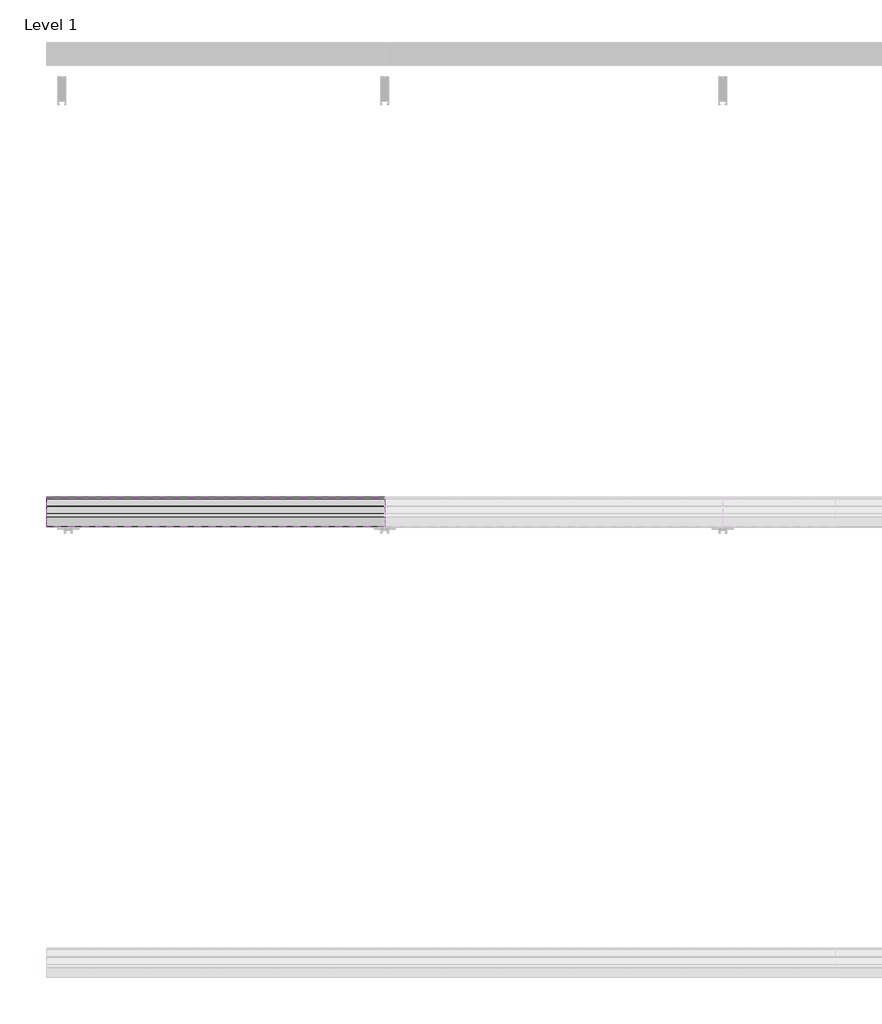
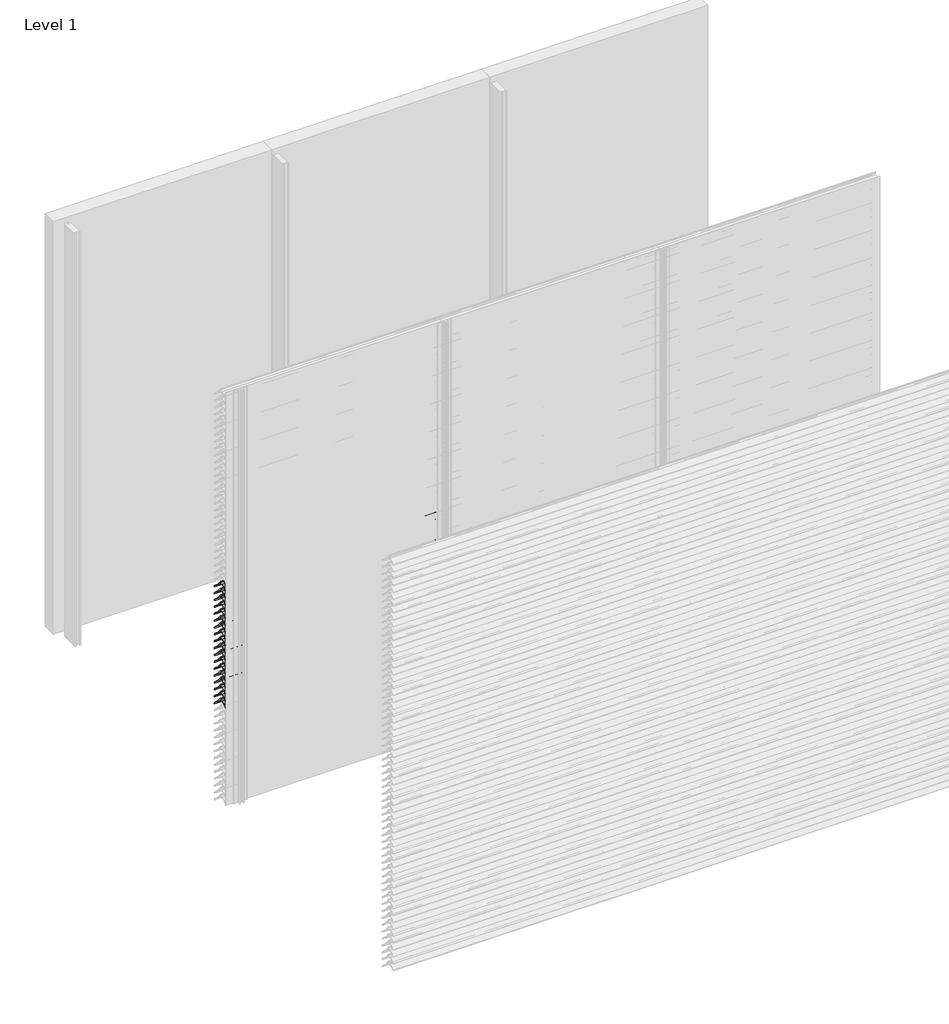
# One storey, part 8 of 173: 18 proxies.
"""IFC4 building model written with IfcOpenShell, lengths in millimetres."""

from ifc_helpers import new_model, si_unit, point, frame, frame_2d, origin, place, context, project, spatial, polyline, circle_curve, trimmed, segment, composite_curve, outline, extrude, element, save

model = new_model("IFC4")

# Units and contexts
model_context = context("Model", 3, world=origin())
ifc_project = project(units=[si_unit("LENGTHUNIT", "METRE", prefix="MILLI")], contexts=[model_context])

# Site, building, storey
site = spatial("IfcSite", under=ifc_project)
building = spatial("IfcBuilding", under=site)
storey = spatial("IfcBuildingStorey", under=building, Name="Level 1", Elevation=0.0)

# Proxies
placement = place(None, origin())
element("IfcBuildingElementProxy", 1, Name="Wall Sweeps", at=placement, inside=storey, context=model_context, shape_type="SweptSolid", body=[
    extrude(outline(composite_curve([segment(polyline([(-53998.0, 1559.1474905), (-53998.0, 1561.6227417)]), True, "CONTINUOUS"), segment(trimmed(circle_curve(frame_2d((-53951.2682172, 1516.2200208)), 65.1557103), [point((-53998.0, 1561.6227417))], [point((-53954.4014323, 1581.3003524))], False, "CARTESIAN"), True, "CONTINUOUS"), segment(polyline([(-53954.4014323, 1581.3003524), (-53934.8315836, 1581.3003524)]), True, "CONTINUOUS"), segment(trimmed(circle_curve(frame_2d((-53732.7329489, 1728.5533172)), 250.0545817), [point((-53934.8315836, 1581.3003524))], [point((-53941.4452143, 1590.8344583))], False, "CARTESIAN"), True, "CONTINUOUS"), segment(trimmed(circle_curve(frame_2d((-53953.2981792, 1585.1737835)), 13.1352966), [point((-53941.4452143, 1590.8344583))], [point((-53953.8171475, 1598.298824))], True, "CARTESIAN"), True, "CONTINUOUS"), segment(polyline([(-53953.8171475, 1598.298824), (-53953.8171475, 1600.0)]), True, "CONTINUOUS"), segment(trimmed(circle_curve(frame_2d((-53953.2981792, 1585.1737835)), 14.8352966), [point((-53953.8171475, 1600.0))], [point((-53939.9637661, 1591.6760487))], False, "CARTESIAN"), True, "CONTINUOUS"), segment(trimmed(circle_curve(frame_2d((-53732.7329489, 1728.5533172)), 248.3545817), [point((-53939.9637661, 1591.6760487))], [point((-53873.8787895, 1524.2059416))], True, "CARTESIAN"), True, "CONTINUOUS"), segment(trimmed(circle_curve(frame_2d((-53883.8147537, 1511.6649442)), 16.0), [point((-53873.8787895, 1524.2059416))], [point((-53867.8648347, 1510.4))], False, "CARTESIAN"), True, "CONTINUOUS"), segment(polyline([(-53867.8648347, 1510.4), (-53869.6712069, 1510.4)]), True, "CONTINUOUS"), segment(trimmed(circle_curve(frame_2d((-53883.8147537, 1511.6649442)), 14.2), [point((-53869.6712069, 1510.4))], [point((-53874.9518628, 1522.7594998))], True, "CARTESIAN"), True, "CONTINUOUS"), segment(trimmed(circle_curve(frame_2d((-53732.7329489, 1728.5533172)), 250.1545817), [point((-53874.9518628, 1522.7594998))], [point((-53933.7064024, 1579.6003524))], False, "CARTESIAN"), True, "CONTINUOUS"), segment(polyline([(-53933.7064024, 1579.6003524), (-53954.3602632, 1579.6003524)]), True, "CONTINUOUS"), segment(trimmed(circle_curve(frame_2d((-53951.2682172, 1516.2200208)), 63.4557103), [point((-53954.3602632, 1579.6003524))], [point((-53998.0, 1559.1474905))], True, "CARTESIAN"), True, "CONTINUOUS")], self_intersect=False)), frame((0.0, 0.0, 0.0), z_axis=(1.0, 0.0, 0.0), x_axis=(0.0, 1.0, 0.0)), (0.0, 0.0, 1.0), 1500.0),
])
element("IfcBuildingElementProxy", 2, Name="Wall Sweeps", at=placement, inside=storey, context=model_context, shape_type="SweptSolid", body=[
    extrude(outline(composite_curve([segment(polyline([(-53998.0, 1509.1474905), (-53998.0, 1511.6227417)]), True, "CONTINUOUS"), segment(trimmed(circle_curve(frame_2d((-53951.2682172, 1466.2200208)), 65.1557103), [point((-53998.0, 1511.6227417))], [point((-53954.4014323, 1531.3003524))], False, "CARTESIAN"), True, "CONTINUOUS"), segment(polyline([(-53954.4014323, 1531.3003524), (-53934.8315836, 1531.3003524)]), True, "CONTINUOUS"), segment(trimmed(circle_curve(frame_2d((-53732.7329489, 1678.5533172)), 250.0545817), [point((-53934.8315836, 1531.3003524))], [point((-53941.4452143, 1540.8344583))], False, "CARTESIAN"), True, "CONTINUOUS"), segment(trimmed(circle_curve(frame_2d((-53953.2981792, 1535.1737835)), 13.1352966), [point((-53941.4452143, 1540.8344583))], [point((-53953.8171475, 1548.298824))], True, "CARTESIAN"), True, "CONTINUOUS"), segment(polyline([(-53953.8171475, 1548.298824), (-53953.8171475, 1550.0)]), True, "CONTINUOUS"), segment(trimmed(circle_curve(frame_2d((-53953.2981792, 1535.1737835)), 14.8352966), [point((-53953.8171475, 1550.0))], [point((-53939.9637661, 1541.6760487))], False, "CARTESIAN"), True, "CONTINUOUS"), segment(trimmed(circle_curve(frame_2d((-53732.7329489, 1678.5533172)), 248.3545817), [point((-53939.9637661, 1541.6760487))], [point((-53873.8787895, 1474.2059416))], True, "CARTESIAN"), True, "CONTINUOUS"), segment(trimmed(circle_curve(frame_2d((-53883.8147537, 1461.6649442)), 16.0), [point((-53873.8787895, 1474.2059416))], [point((-53867.8648347, 1460.4))], False, "CARTESIAN"), True, "CONTINUOUS"), segment(polyline([(-53867.8648347, 1460.4), (-53869.6712069, 1460.4)]), True, "CONTINUOUS"), segment(trimmed(circle_curve(frame_2d((-53883.8147537, 1461.6649442)), 14.2), [point((-53869.6712069, 1460.4))], [point((-53874.9518628, 1472.7594998))], True, "CARTESIAN"), True, "CONTINUOUS"), segment(trimmed(circle_curve(frame_2d((-53732.7329489, 1678.5533172)), 250.1545817), [point((-53874.9518628, 1472.7594998))], [point((-53933.7064024, 1529.6003524))], False, "CARTESIAN"), True, "CONTINUOUS"), segment(polyline([(-53933.7064024, 1529.6003524), (-53954.3602632, 1529.6003524)]), True, "CONTINUOUS"), segment(trimmed(circle_curve(frame_2d((-53951.2682172, 1466.2200208)), 63.4557103), [point((-53954.3602632, 1529.6003524))], [point((-53998.0, 1509.1474905))], True, "CARTESIAN"), True, "CONTINUOUS")], self_intersect=False)), frame((0.0, 0.0, 0.0), z_axis=(1.0, 0.0, 0.0), x_axis=(0.0, 1.0, 0.0)), (0.0, 0.0, 1.0), 1500.0),
])
element("IfcBuildingElementProxy", 3, Name="Wall Sweeps", at=placement, inside=storey, context=model_context, shape_type="SweptSolid", body=[
    extrude(outline(composite_curve([segment(polyline([(-53998.0, 1459.1474905), (-53998.0, 1461.6227417)]), True, "CONTINUOUS"), segment(trimmed(circle_curve(frame_2d((-53951.2682172, 1416.2200208)), 65.1557103), [point((-53998.0, 1461.6227417))], [point((-53954.4014323, 1481.3003524))], False, "CARTESIAN"), True, "CONTINUOUS"), segment(polyline([(-53954.4014323, 1481.3003524), (-53934.8315836, 1481.3003524)]), True, "CONTINUOUS"), segment(trimmed(circle_curve(frame_2d((-53732.7329489, 1628.5533172)), 250.0545817), [point((-53934.8315836, 1481.3003524))], [point((-53941.4452143, 1490.8344583))], False, "CARTESIAN"), True, "CONTINUOUS"), segment(trimmed(circle_curve(frame_2d((-53953.2981792, 1485.1737835)), 13.1352966), [point((-53941.4452143, 1490.8344583))], [point((-53953.8171475, 1498.298824))], True, "CARTESIAN"), True, "CONTINUOUS"), segment(polyline([(-53953.8171475, 1498.298824), (-53953.8171475, 1500.0)]), True, "CONTINUOUS"), segment(trimmed(circle_curve(frame_2d((-53953.2981792, 1485.1737835)), 14.8352966), [point((-53953.8171475, 1500.0))], [point((-53939.9637661, 1491.6760487))], False, "CARTESIAN"), True, "CONTINUOUS"), segment(trimmed(circle_curve(frame_2d((-53732.7329489, 1628.5533172)), 248.3545817), [point((-53939.9637661, 1491.6760487))], [point((-53873.8787895, 1424.2059416))], True, "CARTESIAN"), True, "CONTINUOUS"), segment(trimmed(circle_curve(frame_2d((-53883.8147537, 1411.6649442)), 16.0), [point((-53873.8787895, 1424.2059416))], [point((-53867.8648347, 1410.4))], False, "CARTESIAN"), True, "CONTINUOUS"), segment(polyline([(-53867.8648347, 1410.4), (-53869.6712069, 1410.4)]), True, "CONTINUOUS"), segment(trimmed(circle_curve(frame_2d((-53883.8147537, 1411.6649442)), 14.2), [point((-53869.6712069, 1410.4))], [point((-53874.9518628, 1422.7594998))], True, "CARTESIAN"), True, "CONTINUOUS"), segment(trimmed(circle_curve(frame_2d((-53732.7329489, 1628.5533172)), 250.1545817), [point((-53874.9518628, 1422.7594998))], [point((-53933.7064024, 1479.6003524))], False, "CARTESIAN"), True, "CONTINUOUS"), segment(polyline([(-53933.7064024, 1479.6003524), (-53954.3602632, 1479.6003524)]), True, "CONTINUOUS"), segment(trimmed(circle_curve(frame_2d((-53951.2682172, 1416.2200208)), 63.4557103), [point((-53954.3602632, 1479.6003524))], [point((-53998.0, 1459.1474905))], True, "CARTESIAN"), True, "CONTINUOUS")], self_intersect=False)), frame((0.0, 0.0, 0.0), z_axis=(1.0, 0.0, 0.0), x_axis=(0.0, 1.0, 0.0)), (0.0, 0.0, 1.0), 1500.0),
])
element("IfcBuildingElementProxy", 4, Name="Wall Sweeps", at=placement, inside=storey, context=model_context, shape_type="SweptSolid", body=[
    extrude(outline(composite_curve([segment(polyline([(-53998.0, 1409.1474905), (-53998.0, 1411.6227417)]), True, "CONTINUOUS"), segment(trimmed(circle_curve(frame_2d((-53951.2682172, 1366.2200208)), 65.1557103), [point((-53998.0, 1411.6227417))], [point((-53954.4014323, 1431.3003524))], False, "CARTESIAN"), True, "CONTINUOUS"), segment(polyline([(-53954.4014323, 1431.3003524), (-53934.8315836, 1431.3003524)]), True, "CONTINUOUS"), segment(trimmed(circle_curve(frame_2d((-53732.7329489, 1578.5533172)), 250.0545817), [point((-53934.8315836, 1431.3003524))], [point((-53941.4452143, 1440.8344583))], False, "CARTESIAN"), True, "CONTINUOUS"), segment(trimmed(circle_curve(frame_2d((-53953.2981792, 1435.1737835)), 13.1352966), [point((-53941.4452143, 1440.8344583))], [point((-53953.8171475, 1448.298824))], True, "CARTESIAN"), True, "CONTINUOUS"), segment(polyline([(-53953.8171475, 1448.298824), (-53953.8171475, 1450.0)]), True, "CONTINUOUS"), segment(trimmed(circle_curve(frame_2d((-53953.2981792, 1435.1737835)), 14.8352966), [point((-53953.8171475, 1450.0))], [point((-53939.9637661, 1441.6760487))], False, "CARTESIAN"), True, "CONTINUOUS"), segment(trimmed(circle_curve(frame_2d((-53732.7329489, 1578.5533172)), 248.3545817), [point((-53939.9637661, 1441.6760487))], [point((-53873.8787895, 1374.2059416))], True, "CARTESIAN"), True, "CONTINUOUS"), segment(trimmed(circle_curve(frame_2d((-53883.8147537, 1361.6649442)), 16.0), [point((-53873.8787895, 1374.2059416))], [point((-53867.8648347, 1360.4))], False, "CARTESIAN"), True, "CONTINUOUS"), segment(polyline([(-53867.8648347, 1360.4), (-53869.6712069, 1360.4)]), True, "CONTINUOUS"), segment(trimmed(circle_curve(frame_2d((-53883.8147537, 1361.6649442)), 14.2), [point((-53869.6712069, 1360.4))], [point((-53874.9518628, 1372.7594998))], True, "CARTESIAN"), True, "CONTINUOUS"), segment(trimmed(circle_curve(frame_2d((-53732.7329489, 1578.5533172)), 250.1545817), [point((-53874.9518628, 1372.7594998))], [point((-53933.7064024, 1429.6003524))], False, "CARTESIAN"), True, "CONTINUOUS"), segment(polyline([(-53933.7064024, 1429.6003524), (-53954.3602632, 1429.6003524)]), True, "CONTINUOUS"), segment(trimmed(circle_curve(frame_2d((-53951.2682172, 1366.2200208)), 63.4557103), [point((-53954.3602632, 1429.6003524))], [point((-53998.0, 1409.1474905))], True, "CARTESIAN"), True, "CONTINUOUS")], self_intersect=False)), frame((0.0, 0.0, 0.0), z_axis=(1.0, 0.0, 0.0), x_axis=(0.0, 1.0, 0.0)), (0.0, 0.0, 1.0), 1500.0),
])
element("IfcBuildingElementProxy", 5, Name="Wall Sweeps", at=placement, inside=storey, context=model_context, shape_type="SweptSolid", body=[
    extrude(outline(composite_curve([segment(polyline([(-53998.0, 1359.1474905), (-53998.0, 1361.6227417)]), True, "CONTINUOUS"), segment(trimmed(circle_curve(frame_2d((-53951.2682172, 1316.2200208)), 65.1557103), [point((-53998.0, 1361.6227417))], [point((-53954.4014323, 1381.3003524))], False, "CARTESIAN"), True, "CONTINUOUS"), segment(polyline([(-53954.4014323, 1381.3003524), (-53934.8315836, 1381.3003524)]), True, "CONTINUOUS"), segment(trimmed(circle_curve(frame_2d((-53732.7329489, 1528.5533172)), 250.0545817), [point((-53934.8315836, 1381.3003524))], [point((-53941.4452143, 1390.8344583))], False, "CARTESIAN"), True, "CONTINUOUS"), segment(trimmed(circle_curve(frame_2d((-53953.2981792, 1385.1737835)), 13.1352966), [point((-53941.4452143, 1390.8344583))], [point((-53953.8171475, 1398.298824))], True, "CARTESIAN"), True, "CONTINUOUS"), segment(polyline([(-53953.8171475, 1398.298824), (-53953.8171475, 1400.0)]), True, "CONTINUOUS"), segment(trimmed(circle_curve(frame_2d((-53953.2981792, 1385.1737835)), 14.8352966), [point((-53953.8171475, 1400.0))], [point((-53939.9637661, 1391.6760487))], False, "CARTESIAN"), True, "CONTINUOUS"), segment(trimmed(circle_curve(frame_2d((-53732.7329489, 1528.5533172)), 248.3545817), [point((-53939.9637661, 1391.6760487))], [point((-53873.8787895, 1324.2059416))], True, "CARTESIAN"), True, "CONTINUOUS"), segment(trimmed(circle_curve(frame_2d((-53883.8147537, 1311.6649442)), 16.0), [point((-53873.8787895, 1324.2059416))], [point((-53867.8648347, 1310.4))], False, "CARTESIAN"), True, "CONTINUOUS"), segment(polyline([(-53867.8648347, 1310.4), (-53869.6712069, 1310.4)]), True, "CONTINUOUS"), segment(trimmed(circle_curve(frame_2d((-53883.8147537, 1311.6649442)), 14.2), [point((-53869.6712069, 1310.4))], [point((-53874.9518628, 1322.7594998))], True, "CARTESIAN"), True, "CONTINUOUS"), segment(trimmed(circle_curve(frame_2d((-53732.7329489, 1528.5533172)), 250.1545817), [point((-53874.9518628, 1322.7594998))], [point((-53933.7064024, 1379.6003524))], False, "CARTESIAN"), True, "CONTINUOUS"), segment(polyline([(-53933.7064024, 1379.6003524), (-53954.3602632, 1379.6003524)]), True, "CONTINUOUS"), segment(trimmed(circle_curve(frame_2d((-53951.2682172, 1316.2200208)), 63.4557103), [point((-53954.3602632, 1379.6003524))], [point((-53998.0, 1359.1474905))], True, "CARTESIAN"), True, "CONTINUOUS")], self_intersect=False)), frame((0.0, 0.0, 0.0), z_axis=(1.0, 0.0, 0.0), x_axis=(0.0, 1.0, 0.0)), (0.0, 0.0, 1.0), 1500.0),
])
element("IfcBuildingElementProxy", 6, Name="Wall Sweeps", at=placement, inside=storey, context=model_context, shape_type="SweptSolid", body=[
    extrude(outline(composite_curve([segment(polyline([(-53998.0, 1309.1474905), (-53998.0, 1311.6227417)]), True, "CONTINUOUS"), segment(trimmed(circle_curve(frame_2d((-53951.2682172, 1266.2200208)), 65.1557103), [point((-53998.0, 1311.6227417))], [point((-53954.4014323, 1331.3003524))], False, "CARTESIAN"), True, "CONTINUOUS"), segment(polyline([(-53954.4014323, 1331.3003524), (-53934.8315836, 1331.3003524)]), True, "CONTINUOUS"), segment(trimmed(circle_curve(frame_2d((-53732.7329489, 1478.5533172)), 250.0545817), [point((-53934.8315836, 1331.3003524))], [point((-53941.4452143, 1340.8344583))], False, "CARTESIAN"), True, "CONTINUOUS"), segment(trimmed(circle_curve(frame_2d((-53953.2981792, 1335.1737835)), 13.1352966), [point((-53941.4452143, 1340.8344583))], [point((-53953.8171475, 1348.298824))], True, "CARTESIAN"), True, "CONTINUOUS"), segment(polyline([(-53953.8171475, 1348.298824), (-53953.8171475, 1350.0)]), True, "CONTINUOUS"), segment(trimmed(circle_curve(frame_2d((-53953.2981792, 1335.1737835)), 14.8352966), [point((-53953.8171475, 1350.0))], [point((-53939.9637661, 1341.6760487))], False, "CARTESIAN"), True, "CONTINUOUS"), segment(trimmed(circle_curve(frame_2d((-53732.7329489, 1478.5533172)), 248.3545817), [point((-53939.9637661, 1341.6760487))], [point((-53873.8787895, 1274.2059416))], True, "CARTESIAN"), True, "CONTINUOUS"), segment(trimmed(circle_curve(frame_2d((-53883.8147537, 1261.6649442)), 16.0), [point((-53873.8787895, 1274.2059416))], [point((-53867.8648347, 1260.4))], False, "CARTESIAN"), True, "CONTINUOUS"), segment(polyline([(-53867.8648347, 1260.4), (-53869.6712069, 1260.4)]), True, "CONTINUOUS"), segment(trimmed(circle_curve(frame_2d((-53883.8147537, 1261.6649442)), 14.2), [point((-53869.6712069, 1260.4))], [point((-53874.9518628, 1272.7594998))], True, "CARTESIAN"), True, "CONTINUOUS"), segment(trimmed(circle_curve(frame_2d((-53732.7329489, 1478.5533172)), 250.1545817), [point((-53874.9518628, 1272.7594998))], [point((-53933.7064024, 1329.6003524))], False, "CARTESIAN"), True, "CONTINUOUS"), segment(polyline([(-53933.7064024, 1329.6003524), (-53954.3602632, 1329.6003524)]), True, "CONTINUOUS"), segment(trimmed(circle_curve(frame_2d((-53951.2682172, 1266.2200208)), 63.4557103), [point((-53954.3602632, 1329.6003524))], [point((-53998.0, 1309.1474905))], True, "CARTESIAN"), True, "CONTINUOUS")], self_intersect=False)), frame((0.0, 0.0, 0.0), z_axis=(1.0, 0.0, 0.0), x_axis=(0.0, 1.0, 0.0)), (0.0, 0.0, 1.0), 1500.0),
])
element("IfcBuildingElementProxy", 7, Name="Wall Sweeps", at=placement, inside=storey, context=model_context, shape_type="SweptSolid", body=[
    extrude(outline(composite_curve([segment(polyline([(-53998.0, 1259.1474905), (-53998.0, 1261.6227417)]), True, "CONTINUOUS"), segment(trimmed(circle_curve(frame_2d((-53951.2682172, 1216.2200208)), 65.1557103), [point((-53998.0, 1261.6227417))], [point((-53954.4014323, 1281.3003524))], False, "CARTESIAN"), True, "CONTINUOUS"), segment(polyline([(-53954.4014323, 1281.3003524), (-53934.8315836, 1281.3003524)]), True, "CONTINUOUS"), segment(trimmed(circle_curve(frame_2d((-53732.7329489, 1428.5533172)), 250.0545817), [point((-53934.8315836, 1281.3003524))], [point((-53941.4452143, 1290.8344583))], False, "CARTESIAN"), True, "CONTINUOUS"), segment(trimmed(circle_curve(frame_2d((-53953.2981792, 1285.1737835)), 13.1352966), [point((-53941.4452143, 1290.8344583))], [point((-53953.8171475, 1298.298824))], True, "CARTESIAN"), True, "CONTINUOUS"), segment(polyline([(-53953.8171475, 1298.298824), (-53953.8171475, 1300.0)]), True, "CONTINUOUS"), segment(trimmed(circle_curve(frame_2d((-53953.2981792, 1285.1737835)), 14.8352966), [point((-53953.8171475, 1300.0))], [point((-53939.9637661, 1291.6760487))], False, "CARTESIAN"), True, "CONTINUOUS"), segment(trimmed(circle_curve(frame_2d((-53732.7329489, 1428.5533172)), 248.3545817), [point((-53939.9637661, 1291.6760487))], [point((-53873.8787895, 1224.2059416))], True, "CARTESIAN"), True, "CONTINUOUS"), segment(trimmed(circle_curve(frame_2d((-53883.8147537, 1211.6649442)), 16.0), [point((-53873.8787895, 1224.2059416))], [point((-53867.8648347, 1210.4))], False, "CARTESIAN"), True, "CONTINUOUS"), segment(polyline([(-53867.8648347, 1210.4), (-53869.6712069, 1210.4)]), True, "CONTINUOUS"), segment(trimmed(circle_curve(frame_2d((-53883.8147537, 1211.6649442)), 14.2), [point((-53869.6712069, 1210.4))], [point((-53874.9518628, 1222.7594998))], True, "CARTESIAN"), True, "CONTINUOUS"), segment(trimmed(circle_curve(frame_2d((-53732.7329489, 1428.5533172)), 250.1545817), [point((-53874.9518628, 1222.7594998))], [point((-53933.7064024, 1279.6003524))], False, "CARTESIAN"), True, "CONTINUOUS"), segment(polyline([(-53933.7064024, 1279.6003524), (-53954.3602632, 1279.6003524)]), True, "CONTINUOUS"), segment(trimmed(circle_curve(frame_2d((-53951.2682172, 1216.2200208)), 63.4557103), [point((-53954.3602632, 1279.6003524))], [point((-53998.0, 1259.1474905))], True, "CARTESIAN"), True, "CONTINUOUS")], self_intersect=False)), frame((0.0, 0.0, 0.0), z_axis=(1.0, 0.0, 0.0), x_axis=(0.0, 1.0, 0.0)), (0.0, 0.0, 1.0), 1500.0),
])
element("IfcBuildingElementProxy", 8, Name="Wall Sweeps", at=placement, inside=storey, context=model_context, shape_type="SweptSolid", body=[
    extrude(outline(composite_curve([segment(polyline([(-53998.0, 1209.1474905), (-53998.0, 1211.6227417)]), True, "CONTINUOUS"), segment(trimmed(circle_curve(frame_2d((-53951.2682172, 1166.2200208)), 65.1557103), [point((-53998.0, 1211.6227417))], [point((-53954.4014323, 1231.3003524))], False, "CARTESIAN"), True, "CONTINUOUS"), segment(polyline([(-53954.4014323, 1231.3003524), (-53934.8315836, 1231.3003524)]), True, "CONTINUOUS"), segment(trimmed(circle_curve(frame_2d((-53732.7329489, 1378.5533172)), 250.0545817), [point((-53934.8315836, 1231.3003524))], [point((-53941.4452143, 1240.8344583))], False, "CARTESIAN"), True, "CONTINUOUS"), segment(trimmed(circle_curve(frame_2d((-53953.2981792, 1235.1737835)), 13.1352966), [point((-53941.4452143, 1240.8344583))], [point((-53953.8171475, 1248.298824))], True, "CARTESIAN"), True, "CONTINUOUS"), segment(polyline([(-53953.8171475, 1248.298824), (-53953.8171475, 1250.0)]), True, "CONTINUOUS"), segment(trimmed(circle_curve(frame_2d((-53953.2981792, 1235.1737835)), 14.8352966), [point((-53953.8171475, 1250.0))], [point((-53939.9637661, 1241.6760487))], False, "CARTESIAN"), True, "CONTINUOUS"), segment(trimmed(circle_curve(frame_2d((-53732.7329489, 1378.5533172)), 248.3545817), [point((-53939.9637661, 1241.6760487))], [point((-53873.8787895, 1174.2059416))], True, "CARTESIAN"), True, "CONTINUOUS"), segment(trimmed(circle_curve(frame_2d((-53883.8147537, 1161.6649442)), 16.0), [point((-53873.8787895, 1174.2059416))], [point((-53867.8648347, 1160.4))], False, "CARTESIAN"), True, "CONTINUOUS"), segment(polyline([(-53867.8648347, 1160.4), (-53869.6712069, 1160.4)]), True, "CONTINUOUS"), segment(trimmed(circle_curve(frame_2d((-53883.8147537, 1161.6649442)), 14.2), [point((-53869.6712069, 1160.4))], [point((-53874.9518628, 1172.7594998))], True, "CARTESIAN"), True, "CONTINUOUS"), segment(trimmed(circle_curve(frame_2d((-53732.7329489, 1378.5533172)), 250.1545817), [point((-53874.9518628, 1172.7594998))], [point((-53933.7064024, 1229.6003524))], False, "CARTESIAN"), True, "CONTINUOUS"), segment(polyline([(-53933.7064024, 1229.6003524), (-53954.3602632, 1229.6003524)]), True, "CONTINUOUS"), segment(trimmed(circle_curve(frame_2d((-53951.2682172, 1166.2200208)), 63.4557103), [point((-53954.3602632, 1229.6003524))], [point((-53998.0, 1209.1474905))], True, "CARTESIAN"), True, "CONTINUOUS")], self_intersect=False)), frame((0.0, 0.0, 0.0), z_axis=(1.0, 0.0, 0.0), x_axis=(0.0, 1.0, 0.0)), (0.0, 0.0, 1.0), 1500.0),
])
element("IfcBuildingElementProxy", 9, Name="Wall Sweeps", at=placement, inside=storey, context=model_context, shape_type="SweptSolid", body=[
    extrude(outline(composite_curve([segment(polyline([(-53998.0, 1159.1474905), (-53998.0, 1161.6227417)]), True, "CONTINUOUS"), segment(trimmed(circle_curve(frame_2d((-53951.2682172, 1116.2200208)), 65.1557103), [point((-53998.0, 1161.6227417))], [point((-53954.4014323, 1181.3003524))], False, "CARTESIAN"), True, "CONTINUOUS"), segment(polyline([(-53954.4014323, 1181.3003524), (-53934.8315836, 1181.3003524)]), True, "CONTINUOUS"), segment(trimmed(circle_curve(frame_2d((-53732.7329489, 1328.5533172)), 250.0545817), [point((-53934.8315836, 1181.3003524))], [point((-53941.4452143, 1190.8344583))], False, "CARTESIAN"), True, "CONTINUOUS"), segment(trimmed(circle_curve(frame_2d((-53953.2981792, 1185.1737835)), 13.1352966), [point((-53941.4452143, 1190.8344583))], [point((-53953.8171475, 1198.298824))], True, "CARTESIAN"), True, "CONTINUOUS"), segment(polyline([(-53953.8171475, 1198.298824), (-53953.8171475, 1200.0)]), True, "CONTINUOUS"), segment(trimmed(circle_curve(frame_2d((-53953.2981792, 1185.1737835)), 14.8352966), [point((-53953.8171475, 1200.0))], [point((-53939.9637661, 1191.6760487))], False, "CARTESIAN"), True, "CONTINUOUS"), segment(trimmed(circle_curve(frame_2d((-53732.7329489, 1328.5533172)), 248.3545817), [point((-53939.9637661, 1191.6760487))], [point((-53873.8787895, 1124.2059416))], True, "CARTESIAN"), True, "CONTINUOUS"), segment(trimmed(circle_curve(frame_2d((-53883.8147537, 1111.6649442)), 16.0), [point((-53873.8787895, 1124.2059416))], [point((-53867.8648347, 1110.4))], False, "CARTESIAN"), True, "CONTINUOUS"), segment(polyline([(-53867.8648347, 1110.4), (-53869.6712069, 1110.4)]), True, "CONTINUOUS"), segment(trimmed(circle_curve(frame_2d((-53883.8147537, 1111.6649442)), 14.2), [point((-53869.6712069, 1110.4))], [point((-53874.9518628, 1122.7594998))], True, "CARTESIAN"), True, "CONTINUOUS"), segment(trimmed(circle_curve(frame_2d((-53732.7329489, 1328.5533172)), 250.1545817), [point((-53874.9518628, 1122.7594998))], [point((-53933.7064024, 1179.6003524))], False, "CARTESIAN"), True, "CONTINUOUS"), segment(polyline([(-53933.7064024, 1179.6003524), (-53954.3602632, 1179.6003524)]), True, "CONTINUOUS"), segment(trimmed(circle_curve(frame_2d((-53951.2682172, 1116.2200208)), 63.4557103), [point((-53954.3602632, 1179.6003524))], [point((-53998.0, 1159.1474905))], True, "CARTESIAN"), True, "CONTINUOUS")], self_intersect=False)), frame((0.0, 0.0, 0.0), z_axis=(1.0, 0.0, 0.0), x_axis=(0.0, 1.0, 0.0)), (0.0, 0.0, 1.0), 1500.0),
])
element("IfcBuildingElementProxy", 10, Name="Wall Sweeps", at=placement, inside=storey, context=model_context, shape_type="SweptSolid", body=[
    extrude(outline(composite_curve([segment(polyline([(-53998.0, 1109.1474905), (-53998.0, 1111.6227417)]), True, "CONTINUOUS"), segment(trimmed(circle_curve(frame_2d((-53951.2682172, 1066.2200208)), 65.1557103), [point((-53998.0, 1111.6227417))], [point((-53954.4014323, 1131.3003524))], False, "CARTESIAN"), True, "CONTINUOUS"), segment(polyline([(-53954.4014323, 1131.3003524), (-53934.8315836, 1131.3003524)]), True, "CONTINUOUS"), segment(trimmed(circle_curve(frame_2d((-53732.7329489, 1278.5533172)), 250.0545817), [point((-53934.8315836, 1131.3003524))], [point((-53941.4452143, 1140.8344583))], False, "CARTESIAN"), True, "CONTINUOUS"), segment(trimmed(circle_curve(frame_2d((-53953.2981792, 1135.1737835)), 13.1352966), [point((-53941.4452143, 1140.8344583))], [point((-53953.8171475, 1148.298824))], True, "CARTESIAN"), True, "CONTINUOUS"), segment(polyline([(-53953.8171475, 1148.298824), (-53953.8171475, 1150.0)]), True, "CONTINUOUS"), segment(trimmed(circle_curve(frame_2d((-53953.2981792, 1135.1737835)), 14.8352966), [point((-53953.8171475, 1150.0))], [point((-53939.9637661, 1141.6760487))], False, "CARTESIAN"), True, "CONTINUOUS"), segment(trimmed(circle_curve(frame_2d((-53732.7329489, 1278.5533172)), 248.3545817), [point((-53939.9637661, 1141.6760487))], [point((-53873.8787895, 1074.2059416))], True, "CARTESIAN"), True, "CONTINUOUS"), segment(trimmed(circle_curve(frame_2d((-53883.8147537, 1061.6649442)), 16.0), [point((-53873.8787895, 1074.2059416))], [point((-53867.8648347, 1060.4))], False, "CARTESIAN"), True, "CONTINUOUS"), segment(polyline([(-53867.8648347, 1060.4), (-53869.6712069, 1060.4)]), True, "CONTINUOUS"), segment(trimmed(circle_curve(frame_2d((-53883.8147537, 1061.6649442)), 14.2), [point((-53869.6712069, 1060.4))], [point((-53874.9518628, 1072.7594998))], True, "CARTESIAN"), True, "CONTINUOUS"), segment(trimmed(circle_curve(frame_2d((-53732.7329489, 1278.5533172)), 250.1545817), [point((-53874.9518628, 1072.7594998))], [point((-53933.7064024, 1129.6003524))], False, "CARTESIAN"), True, "CONTINUOUS"), segment(polyline([(-53933.7064024, 1129.6003524), (-53954.3602632, 1129.6003524)]), True, "CONTINUOUS"), segment(trimmed(circle_curve(frame_2d((-53951.2682172, 1066.2200208)), 63.4557103), [point((-53954.3602632, 1129.6003524))], [point((-53998.0, 1109.1474905))], True, "CARTESIAN"), True, "CONTINUOUS")], self_intersect=False)), frame((0.0, 0.0, 0.0), z_axis=(1.0, 0.0, 0.0), x_axis=(0.0, 1.0, 0.0)), (0.0, 0.0, 1.0), 1500.0),
])
element("IfcBuildingElementProxy", 11, Name="Wall Sweeps", at=placement, inside=storey, context=model_context, shape_type="SweptSolid", body=[
    extrude(outline(composite_curve([segment(polyline([(-53998.0, 1059.1474905), (-53998.0, 1061.6227417)]), True, "CONTINUOUS"), segment(trimmed(circle_curve(frame_2d((-53951.2682172, 1016.2200208)), 65.1557103), [point((-53998.0, 1061.6227417))], [point((-53954.4014323, 1081.3003524))], False, "CARTESIAN"), True, "CONTINUOUS"), segment(polyline([(-53954.4014323, 1081.3003524), (-53934.8315836, 1081.3003524)]), True, "CONTINUOUS"), segment(trimmed(circle_curve(frame_2d((-53732.7329489, 1228.5533172)), 250.0545817), [point((-53934.8315836, 1081.3003524))], [point((-53941.4452143, 1090.8344583))], False, "CARTESIAN"), True, "CONTINUOUS"), segment(trimmed(circle_curve(frame_2d((-53953.2981792, 1085.1737835)), 13.1352966), [point((-53941.4452143, 1090.8344583))], [point((-53953.8171475, 1098.298824))], True, "CARTESIAN"), True, "CONTINUOUS"), segment(polyline([(-53953.8171475, 1098.298824), (-53953.8171475, 1100.0)]), True, "CONTINUOUS"), segment(trimmed(circle_curve(frame_2d((-53953.2981792, 1085.1737835)), 14.8352966), [point((-53953.8171475, 1100.0))], [point((-53939.9637661, 1091.6760487))], False, "CARTESIAN"), True, "CONTINUOUS"), segment(trimmed(circle_curve(frame_2d((-53732.7329489, 1228.5533172)), 248.3545817), [point((-53939.9637661, 1091.6760487))], [point((-53873.8787895, 1024.2059416))], True, "CARTESIAN"), True, "CONTINUOUS"), segment(trimmed(circle_curve(frame_2d((-53883.8147537, 1011.6649442)), 16.0), [point((-53873.8787895, 1024.2059416))], [point((-53867.8648347, 1010.4))], False, "CARTESIAN"), True, "CONTINUOUS"), segment(polyline([(-53867.8648347, 1010.4), (-53869.6712069, 1010.4)]), True, "CONTINUOUS"), segment(trimmed(circle_curve(frame_2d((-53883.8147537, 1011.6649442)), 14.2), [point((-53869.6712069, 1010.4))], [point((-53874.9518628, 1022.7594998))], True, "CARTESIAN"), True, "CONTINUOUS"), segment(trimmed(circle_curve(frame_2d((-53732.7329489, 1228.5533172)), 250.1545817), [point((-53874.9518628, 1022.7594998))], [point((-53933.7064024, 1079.6003524))], False, "CARTESIAN"), True, "CONTINUOUS"), segment(polyline([(-53933.7064024, 1079.6003524), (-53954.3602632, 1079.6003524)]), True, "CONTINUOUS"), segment(trimmed(circle_curve(frame_2d((-53951.2682172, 1016.2200208)), 63.4557103), [point((-53954.3602632, 1079.6003524))], [point((-53998.0, 1059.1474905))], True, "CARTESIAN"), True, "CONTINUOUS")], self_intersect=False)), frame((0.0, 0.0, 0.0), z_axis=(1.0, 0.0, 0.0), x_axis=(0.0, 1.0, 0.0)), (0.0, 0.0, 1.0), 1500.0),
])
element("IfcBuildingElementProxy", 12, Name="Wall Sweeps", at=placement, inside=storey, context=model_context, shape_type="SweptSolid", body=[
    extrude(outline(composite_curve([segment(polyline([(-53998.0, 1009.1474905), (-53998.0, 1011.6227417)]), True, "CONTINUOUS"), segment(trimmed(circle_curve(frame_2d((-53951.2682172, 966.2200208)), 65.1557103), [point((-53998.0, 1011.6227417))], [point((-53954.4014323, 1031.3003524))], False, "CARTESIAN"), True, "CONTINUOUS"), segment(polyline([(-53954.4014323, 1031.3003524), (-53934.8315836, 1031.3003524)]), True, "CONTINUOUS"), segment(trimmed(circle_curve(frame_2d((-53732.7329489, 1178.5533172)), 250.0545817), [point((-53934.8315836, 1031.3003524))], [point((-53941.4452143, 1040.8344583))], False, "CARTESIAN"), True, "CONTINUOUS"), segment(trimmed(circle_curve(frame_2d((-53953.2981792, 1035.1737835)), 13.1352966), [point((-53941.4452143, 1040.8344583))], [point((-53953.8171475, 1048.298824))], True, "CARTESIAN"), True, "CONTINUOUS"), segment(polyline([(-53953.8171475, 1048.298824), (-53953.8171475, 1050.0)]), True, "CONTINUOUS"), segment(trimmed(circle_curve(frame_2d((-53953.2981792, 1035.1737835)), 14.8352966), [point((-53953.8171475, 1050.0))], [point((-53939.9637661, 1041.6760487))], False, "CARTESIAN"), True, "CONTINUOUS"), segment(trimmed(circle_curve(frame_2d((-53732.7329489, 1178.5533172)), 248.3545817), [point((-53939.9637661, 1041.6760487))], [point((-53873.8787895, 974.2059416))], True, "CARTESIAN"), True, "CONTINUOUS"), segment(trimmed(circle_curve(frame_2d((-53883.8147537, 961.6649442)), 16.0), [point((-53873.8787895, 974.2059416))], [point((-53867.8648347, 960.4))], False, "CARTESIAN"), True, "CONTINUOUS"), segment(polyline([(-53867.8648347, 960.4), (-53869.6712069, 960.4)]), True, "CONTINUOUS"), segment(trimmed(circle_curve(frame_2d((-53883.8147537, 961.6649442)), 14.2), [point((-53869.6712069, 960.4))], [point((-53874.9518628, 972.7594998))], True, "CARTESIAN"), True, "CONTINUOUS"), segment(trimmed(circle_curve(frame_2d((-53732.7329489, 1178.5533172)), 250.1545817), [point((-53874.9518628, 972.7594998))], [point((-53933.7064024, 1029.6003524))], False, "CARTESIAN"), True, "CONTINUOUS"), segment(polyline([(-53933.7064024, 1029.6003524), (-53954.3602632, 1029.6003524)]), True, "CONTINUOUS"), segment(trimmed(circle_curve(frame_2d((-53951.2682172, 966.2200208)), 63.4557103), [point((-53954.3602632, 1029.6003524))], [point((-53998.0, 1009.1474905))], True, "CARTESIAN"), True, "CONTINUOUS")], self_intersect=False)), frame((0.0, 0.0, 0.0), z_axis=(1.0, 0.0, 0.0), x_axis=(0.0, 1.0, 0.0)), (0.0, 0.0, 1.0), 1500.0),
])
element("IfcBuildingElementProxy", 13, Name="Wall Sweeps", at=placement, inside=storey, context=model_context, shape_type="SweptSolid", body=[
    extrude(outline(composite_curve([segment(polyline([(-53998.0, 959.1474905), (-53998.0, 961.6227417)]), True, "CONTINUOUS"), segment(trimmed(circle_curve(frame_2d((-53951.2682172, 916.2200208)), 65.1557103), [point((-53998.0, 961.6227417))], [point((-53954.4014323, 981.3003524))], False, "CARTESIAN"), True, "CONTINUOUS"), segment(polyline([(-53954.4014323, 981.3003524), (-53934.8315836, 981.3003524)]), True, "CONTINUOUS"), segment(trimmed(circle_curve(frame_2d((-53732.7329489, 1128.5533172)), 250.0545817), [point((-53934.8315836, 981.3003524))], [point((-53941.4452143, 990.8344583))], False, "CARTESIAN"), True, "CONTINUOUS"), segment(trimmed(circle_curve(frame_2d((-53953.2981792, 985.1737835)), 13.1352966), [point((-53941.4452143, 990.8344583))], [point((-53953.8171475, 998.298824))], True, "CARTESIAN"), True, "CONTINUOUS"), segment(polyline([(-53953.8171475, 998.298824), (-53953.8171475, 1000.0)]), True, "CONTINUOUS"), segment(trimmed(circle_curve(frame_2d((-53953.2981792, 985.1737835)), 14.8352966), [point((-53953.8171475, 1000.0))], [point((-53939.9637661, 991.6760487))], False, "CARTESIAN"), True, "CONTINUOUS"), segment(trimmed(circle_curve(frame_2d((-53732.7329489, 1128.5533172)), 248.3545817), [point((-53939.9637661, 991.6760487))], [point((-53873.8787895, 924.2059416))], True, "CARTESIAN"), True, "CONTINUOUS"), segment(trimmed(circle_curve(frame_2d((-53883.8147537, 911.6649442)), 16.0), [point((-53873.8787895, 924.2059416))], [point((-53867.8648347, 910.4))], False, "CARTESIAN"), True, "CONTINUOUS"), segment(polyline([(-53867.8648347, 910.4), (-53869.6712069, 910.4)]), True, "CONTINUOUS"), segment(trimmed(circle_curve(frame_2d((-53883.8147537, 911.6649442)), 14.2), [point((-53869.6712069, 910.4))], [point((-53874.9518628, 922.7594998))], True, "CARTESIAN"), True, "CONTINUOUS"), segment(trimmed(circle_curve(frame_2d((-53732.7329489, 1128.5533172)), 250.1545817), [point((-53874.9518628, 922.7594998))], [point((-53933.7064024, 979.6003524))], False, "CARTESIAN"), True, "CONTINUOUS"), segment(polyline([(-53933.7064024, 979.6003524), (-53954.3602632, 979.6003524)]), True, "CONTINUOUS"), segment(trimmed(circle_curve(frame_2d((-53951.2682172, 916.2200208)), 63.4557103), [point((-53954.3602632, 979.6003524))], [point((-53998.0, 959.1474905))], True, "CARTESIAN"), True, "CONTINUOUS")], self_intersect=False)), frame((0.0, 0.0, 0.0), z_axis=(1.0, 0.0, 0.0), x_axis=(0.0, 1.0, 0.0)), (0.0, 0.0, 1.0), 1500.0),
])
element("IfcBuildingElementProxy", 14, Name="Wall Sweeps", at=placement, inside=storey, context=model_context, shape_type="SweptSolid", body=[
    extrude(outline(composite_curve([segment(polyline([(-53998.0, 909.1474905), (-53998.0, 911.6227417)]), True, "CONTINUOUS"), segment(trimmed(circle_curve(frame_2d((-53951.2682172, 866.2200208)), 65.1557103), [point((-53998.0, 911.6227417))], [point((-53954.4014323, 931.3003524))], False, "CARTESIAN"), True, "CONTINUOUS"), segment(polyline([(-53954.4014323, 931.3003524), (-53934.8315836, 931.3003524)]), True, "CONTINUOUS"), segment(trimmed(circle_curve(frame_2d((-53732.7329489, 1078.5533172)), 250.0545817), [point((-53934.8315836, 931.3003524))], [point((-53941.4452143, 940.8344583))], False, "CARTESIAN"), True, "CONTINUOUS"), segment(trimmed(circle_curve(frame_2d((-53953.2981792, 935.1737835)), 13.1352966), [point((-53941.4452143, 940.8344583))], [point((-53953.8171475, 948.298824))], True, "CARTESIAN"), True, "CONTINUOUS"), segment(polyline([(-53953.8171475, 948.298824), (-53953.8171475, 950.0)]), True, "CONTINUOUS"), segment(trimmed(circle_curve(frame_2d((-53953.2981792, 935.1737835)), 14.8352966), [point((-53953.8171475, 950.0))], [point((-53939.9637661, 941.6760487))], False, "CARTESIAN"), True, "CONTINUOUS"), segment(trimmed(circle_curve(frame_2d((-53732.7329489, 1078.5533172)), 248.3545817), [point((-53939.9637661, 941.6760487))], [point((-53873.8787895, 874.2059416))], True, "CARTESIAN"), True, "CONTINUOUS"), segment(trimmed(circle_curve(frame_2d((-53883.8147537, 861.6649442)), 16.0), [point((-53873.8787895, 874.2059416))], [point((-53867.8648347, 860.4))], False, "CARTESIAN"), True, "CONTINUOUS"), segment(polyline([(-53867.8648347, 860.4), (-53869.6712069, 860.4)]), True, "CONTINUOUS"), segment(trimmed(circle_curve(frame_2d((-53883.8147537, 861.6649442)), 14.2), [point((-53869.6712069, 860.4))], [point((-53874.9518628, 872.7594998))], True, "CARTESIAN"), True, "CONTINUOUS"), segment(trimmed(circle_curve(frame_2d((-53732.7329489, 1078.5533172)), 250.1545817), [point((-53874.9518628, 872.7594998))], [point((-53933.7064024, 929.6003524))], False, "CARTESIAN"), True, "CONTINUOUS"), segment(polyline([(-53933.7064024, 929.6003524), (-53954.3602632, 929.6003524)]), True, "CONTINUOUS"), segment(trimmed(circle_curve(frame_2d((-53951.2682172, 866.2200208)), 63.4557103), [point((-53954.3602632, 929.6003524))], [point((-53998.0, 909.1474905))], True, "CARTESIAN"), True, "CONTINUOUS")], self_intersect=False)), frame((0.0, 0.0, 0.0), z_axis=(1.0, 0.0, 0.0), x_axis=(0.0, 1.0, 0.0)), (0.0, 0.0, 1.0), 1500.0),
])
element("IfcBuildingElementProxy", 15, Name="Wall Sweeps", at=placement, inside=storey, context=model_context, shape_type="SweptSolid", body=[
    extrude(outline(composite_curve([segment(polyline([(-53998.0, 859.1474905), (-53998.0, 861.6227417)]), True, "CONTINUOUS"), segment(trimmed(circle_curve(frame_2d((-53951.2682172, 816.2200208)), 65.1557103), [point((-53998.0, 861.6227417))], [point((-53954.4014323, 881.3003524))], False, "CARTESIAN"), True, "CONTINUOUS"), segment(polyline([(-53954.4014323, 881.3003524), (-53934.8315836, 881.3003524)]), True, "CONTINUOUS"), segment(trimmed(circle_curve(frame_2d((-53732.7329489, 1028.5533172)), 250.0545817), [point((-53934.8315836, 881.3003524))], [point((-53941.4452143, 890.8344583))], False, "CARTESIAN"), True, "CONTINUOUS"), segment(trimmed(circle_curve(frame_2d((-53953.2981792, 885.1737835)), 13.1352966), [point((-53941.4452143, 890.8344583))], [point((-53953.8171475, 898.298824))], True, "CARTESIAN"), True, "CONTINUOUS"), segment(polyline([(-53953.8171475, 898.298824), (-53953.8171475, 900.0)]), True, "CONTINUOUS"), segment(trimmed(circle_curve(frame_2d((-53953.2981792, 885.1737835)), 14.8352966), [point((-53953.8171475, 900.0))], [point((-53939.9637661, 891.6760487))], False, "CARTESIAN"), True, "CONTINUOUS"), segment(trimmed(circle_curve(frame_2d((-53732.7329489, 1028.5533172)), 248.3545817), [point((-53939.9637661, 891.6760487))], [point((-53873.8787895, 824.2059416))], True, "CARTESIAN"), True, "CONTINUOUS"), segment(trimmed(circle_curve(frame_2d((-53883.8147537, 811.6649442)), 16.0), [point((-53873.8787895, 824.2059416))], [point((-53867.8648347, 810.4))], False, "CARTESIAN"), True, "CONTINUOUS"), segment(polyline([(-53867.8648347, 810.4), (-53869.6712069, 810.4)]), True, "CONTINUOUS"), segment(trimmed(circle_curve(frame_2d((-53883.8147537, 811.6649442)), 14.2), [point((-53869.6712069, 810.4))], [point((-53874.9518628, 822.7594998))], True, "CARTESIAN"), True, "CONTINUOUS"), segment(trimmed(circle_curve(frame_2d((-53732.7329489, 1028.5533172)), 250.1545817), [point((-53874.9518628, 822.7594998))], [point((-53933.7064024, 879.6003524))], False, "CARTESIAN"), True, "CONTINUOUS"), segment(polyline([(-53933.7064024, 879.6003524), (-53954.3602632, 879.6003524)]), True, "CONTINUOUS"), segment(trimmed(circle_curve(frame_2d((-53951.2682172, 816.2200208)), 63.4557103), [point((-53954.3602632, 879.6003524))], [point((-53998.0, 859.1474905))], True, "CARTESIAN"), True, "CONTINUOUS")], self_intersect=False)), frame((0.0, 0.0, 0.0), z_axis=(1.0, 0.0, 0.0), x_axis=(0.0, 1.0, 0.0)), (0.0, 0.0, 1.0), 1500.0),
])
element("IfcBuildingElementProxy", 16, Name="Wall Sweeps", at=placement, inside=storey, context=model_context, shape_type="SweptSolid", body=[
    extrude(outline(composite_curve([segment(polyline([(-53998.0, 809.1474905), (-53998.0, 811.6227417)]), True, "CONTINUOUS"), segment(trimmed(circle_curve(frame_2d((-53951.2682172, 766.2200208)), 65.1557103), [point((-53998.0, 811.6227417))], [point((-53954.4014323, 831.3003524))], False, "CARTESIAN"), True, "CONTINUOUS"), segment(polyline([(-53954.4014323, 831.3003524), (-53934.8315836, 831.3003524)]), True, "CONTINUOUS"), segment(trimmed(circle_curve(frame_2d((-53732.7329489, 978.5533172)), 250.0545817), [point((-53934.8315836, 831.3003524))], [point((-53941.4452143, 840.8344583))], False, "CARTESIAN"), True, "CONTINUOUS"), segment(trimmed(circle_curve(frame_2d((-53953.2981792, 835.1737835)), 13.1352966), [point((-53941.4452143, 840.8344583))], [point((-53953.8171475, 848.298824))], True, "CARTESIAN"), True, "CONTINUOUS"), segment(polyline([(-53953.8171475, 848.298824), (-53953.8171475, 850.0)]), True, "CONTINUOUS"), segment(trimmed(circle_curve(frame_2d((-53953.2981792, 835.1737835)), 14.8352966), [point((-53953.8171475, 850.0))], [point((-53939.9637661, 841.6760487))], False, "CARTESIAN"), True, "CONTINUOUS"), segment(trimmed(circle_curve(frame_2d((-53732.7329489, 978.5533172)), 248.3545817), [point((-53939.9637661, 841.6760487))], [point((-53873.8787895, 774.2059416))], True, "CARTESIAN"), True, "CONTINUOUS"), segment(trimmed(circle_curve(frame_2d((-53883.8147537, 761.6649442)), 16.0), [point((-53873.8787895, 774.2059416))], [point((-53867.8648347, 760.4))], False, "CARTESIAN"), True, "CONTINUOUS"), segment(polyline([(-53867.8648347, 760.4), (-53869.6712069, 760.4)]), True, "CONTINUOUS"), segment(trimmed(circle_curve(frame_2d((-53883.8147537, 761.6649442)), 14.2), [point((-53869.6712069, 760.4))], [point((-53874.9518628, 772.7594998))], True, "CARTESIAN"), True, "CONTINUOUS"), segment(trimmed(circle_curve(frame_2d((-53732.7329489, 978.5533172)), 250.1545817), [point((-53874.9518628, 772.7594998))], [point((-53933.7064024, 829.6003524))], False, "CARTESIAN"), True, "CONTINUOUS"), segment(polyline([(-53933.7064024, 829.6003524), (-53954.3602632, 829.6003524)]), True, "CONTINUOUS"), segment(trimmed(circle_curve(frame_2d((-53951.2682172, 766.2200208)), 63.4557103), [point((-53954.3602632, 829.6003524))], [point((-53998.0, 809.1474905))], True, "CARTESIAN"), True, "CONTINUOUS")], self_intersect=False)), frame((0.0, 0.0, 0.0), z_axis=(1.0, 0.0, 0.0), x_axis=(0.0, 1.0, 0.0)), (0.0, 0.0, 1.0), 1500.0),
])
element("IfcBuildingElementProxy", 17, Name="Wall Sweeps", at=placement, inside=storey, context=model_context, shape_type="SweptSolid", body=[
    extrude(outline(composite_curve([segment(polyline([(-53998.0, 759.1474905), (-53998.0, 761.6227417)]), True, "CONTINUOUS"), segment(trimmed(circle_curve(frame_2d((-53951.2682172, 716.2200208)), 65.1557103), [point((-53998.0, 761.6227417))], [point((-53954.4014323, 781.3003524))], False, "CARTESIAN"), True, "CONTINUOUS"), segment(polyline([(-53954.4014323, 781.3003524), (-53934.8315836, 781.3003524)]), True, "CONTINUOUS"), segment(trimmed(circle_curve(frame_2d((-53732.7329489, 928.5533172)), 250.0545817), [point((-53934.8315836, 781.3003524))], [point((-53941.4452143, 790.8344583))], False, "CARTESIAN"), True, "CONTINUOUS"), segment(trimmed(circle_curve(frame_2d((-53953.2981792, 785.1737835)), 13.1352966), [point((-53941.4452143, 790.8344583))], [point((-53953.8171475, 798.298824))], True, "CARTESIAN"), True, "CONTINUOUS"), segment(polyline([(-53953.8171475, 798.298824), (-53953.8171475, 800.0)]), True, "CONTINUOUS"), segment(trimmed(circle_curve(frame_2d((-53953.2981792, 785.1737835)), 14.8352966), [point((-53953.8171475, 800.0))], [point((-53939.9637661, 791.6760487))], False, "CARTESIAN"), True, "CONTINUOUS"), segment(trimmed(circle_curve(frame_2d((-53732.7329489, 928.5533172)), 248.3545817), [point((-53939.9637661, 791.6760487))], [point((-53873.8787895, 724.2059416))], True, "CARTESIAN"), True, "CONTINUOUS"), segment(trimmed(circle_curve(frame_2d((-53883.8147537, 711.6649442)), 16.0), [point((-53873.8787895, 724.2059416))], [point((-53867.8648347, 710.4))], False, "CARTESIAN"), True, "CONTINUOUS"), segment(polyline([(-53867.8648347, 710.4), (-53869.6712069, 710.4)]), True, "CONTINUOUS"), segment(trimmed(circle_curve(frame_2d((-53883.8147537, 711.6649442)), 14.2), [point((-53869.6712069, 710.4))], [point((-53874.9518628, 722.7594998))], True, "CARTESIAN"), True, "CONTINUOUS"), segment(trimmed(circle_curve(frame_2d((-53732.7329489, 928.5533172)), 250.1545817), [point((-53874.9518628, 722.7594998))], [point((-53933.7064024, 779.6003524))], False, "CARTESIAN"), True, "CONTINUOUS"), segment(polyline([(-53933.7064024, 779.6003524), (-53954.3602632, 779.6003524)]), True, "CONTINUOUS"), segment(trimmed(circle_curve(frame_2d((-53951.2682172, 716.2200208)), 63.4557103), [point((-53954.3602632, 779.6003524))], [point((-53998.0, 759.1474905))], True, "CARTESIAN"), True, "CONTINUOUS")], self_intersect=False)), frame((0.0, 0.0, 0.0), z_axis=(1.0, 0.0, 0.0), x_axis=(0.0, 1.0, 0.0)), (0.0, 0.0, 1.0), 1500.0),
])
element("IfcBuildingElementProxy", 18, Name="Wall Sweeps", at=placement, inside=storey, context=model_context, shape_type="SweptSolid", body=[
    extrude(outline(composite_curve([segment(polyline([(-53998.0, 709.1474905), (-53998.0, 711.6227417)]), True, "CONTINUOUS"), segment(trimmed(circle_curve(frame_2d((-53951.2682172, 666.2200208)), 65.1557103), [point((-53998.0, 711.6227417))], [point((-53954.4014323, 731.3003524))], False, "CARTESIAN"), True, "CONTINUOUS"), segment(polyline([(-53954.4014323, 731.3003524), (-53934.8315836, 731.3003524)]), True, "CONTINUOUS"), segment(trimmed(circle_curve(frame_2d((-53732.7329489, 878.5533172)), 250.0545817), [point((-53934.8315836, 731.3003524))], [point((-53941.4452143, 740.8344583))], False, "CARTESIAN"), True, "CONTINUOUS"), segment(trimmed(circle_curve(frame_2d((-53953.2981792, 735.1737835)), 13.1352966), [point((-53941.4452143, 740.8344583))], [point((-53953.8171475, 748.298824))], True, "CARTESIAN"), True, "CONTINUOUS"), segment(polyline([(-53953.8171475, 748.298824), (-53953.8171475, 750.0)]), True, "CONTINUOUS"), segment(trimmed(circle_curve(frame_2d((-53953.2981792, 735.1737835)), 14.8352966), [point((-53953.8171475, 750.0))], [point((-53939.9637661, 741.6760487))], False, "CARTESIAN"), True, "CONTINUOUS"), segment(trimmed(circle_curve(frame_2d((-53732.7329489, 878.5533172)), 248.3545817), [point((-53939.9637661, 741.6760487))], [point((-53873.8787895, 674.2059416))], True, "CARTESIAN"), True, "CONTINUOUS"), segment(trimmed(circle_curve(frame_2d((-53883.8147537, 661.6649442)), 16.0), [point((-53873.8787895, 674.2059416))], [point((-53867.8648347, 660.4))], False, "CARTESIAN"), True, "CONTINUOUS"), segment(polyline([(-53867.8648347, 660.4), (-53869.6712069, 660.4)]), True, "CONTINUOUS"), segment(trimmed(circle_curve(frame_2d((-53883.8147537, 661.6649442)), 14.2), [point((-53869.6712069, 660.4))], [point((-53874.9518628, 672.7594998))], True, "CARTESIAN"), True, "CONTINUOUS"), segment(trimmed(circle_curve(frame_2d((-53732.7329489, 878.5533172)), 250.1545817), [point((-53874.9518628, 672.7594998))], [point((-53933.7064024, 729.6003524))], False, "CARTESIAN"), True, "CONTINUOUS"), segment(polyline([(-53933.7064024, 729.6003524), (-53954.3602632, 729.6003524)]), True, "CONTINUOUS"), segment(trimmed(circle_curve(frame_2d((-53951.2682172, 666.2200208)), 63.4557103), [point((-53954.3602632, 729.6003524))], [point((-53998.0, 709.1474905))], True, "CARTESIAN"), True, "CONTINUOUS")], self_intersect=False)), frame((0.0, 0.0, 0.0), z_axis=(1.0, 0.0, 0.0), x_axis=(0.0, 1.0, 0.0)), (0.0, 0.0, 1.0), 1500.0),
])

save(model, "model.ifc")
